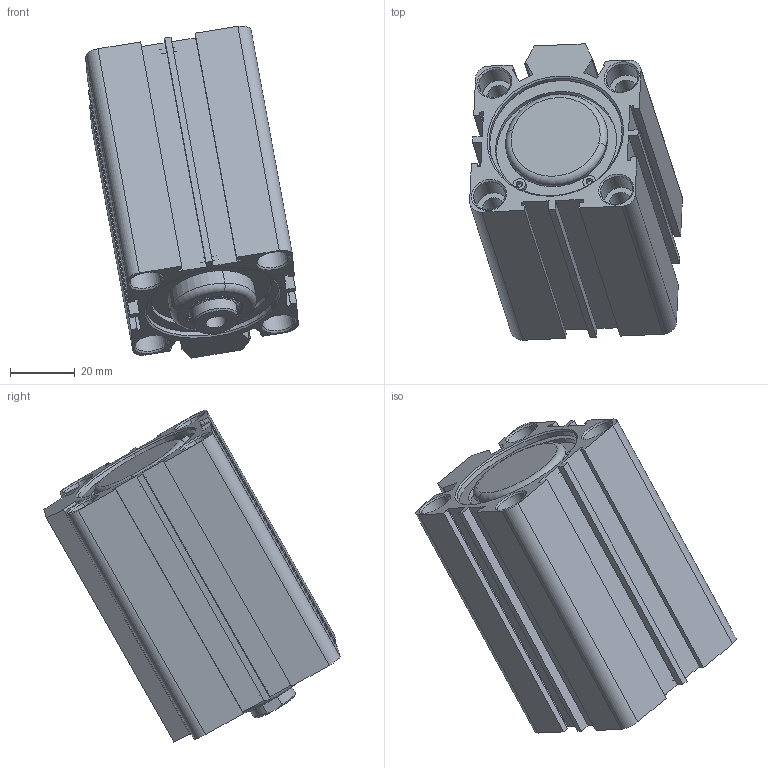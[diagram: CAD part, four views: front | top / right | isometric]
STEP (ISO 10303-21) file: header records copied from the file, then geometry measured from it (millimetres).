
FILE_DESCRIPTION (( 'STEP AP214' ), '1' );
FILE_NAME ('SDA_40_45_WEB.STEP', '2021-01-22T12:14:48', ( 'cagdas' ), ( '' ), 'SwSTEP 2.0', 'SolidWorks 2021', '' );
FILE_SCHEMA (( 'AUTOMOTIVE_DESIGN' ));
Length unit declared in the file: millimetre
Products named in the file (8): SDA40ARKAKAPAK; SDA40ONKAPAK; SDA_40_BORU_WEB; SDA40SEGMAN; SDA40BOGAZKECESI; 16_MIL_WEB; SDA40PAPYUZUK; SDA_40_45_WEB
Assembly tree (8 placements, depth 2):
  SDA_40_45_WEB
    SDA40ARKAKAPAK
    SDA40SEGMAN  x2
    SDA40ONKAPAK
    SDA40PAPYUZUK
    SDA40BOGAZKECESI
    SDA_40_BORU_WEB
    16_MIL_WEB
Bounding box: 65.96 x 91.81 x 102.93 mm (x, y, z)
Volume: 115242.8 mm3; surface area: 59057.1 mm2
Topology: 8 solids, 8 shells, 474 faces, 1175 edges, 758 vertices
Faces by surface type: plane 185, cylinder 128, bspline 85, cone 72, torus 4
Entity records: 19871 total; most frequent: CARTESIAN_POINT 7117, ORIENTED_EDGE 2254, DIRECTION 2025, EDGE_CURVE 1127, VERTEX_POINT 726, AXIS2_PLACEMENT_3D 698, VECTOR 629, LINE 629
